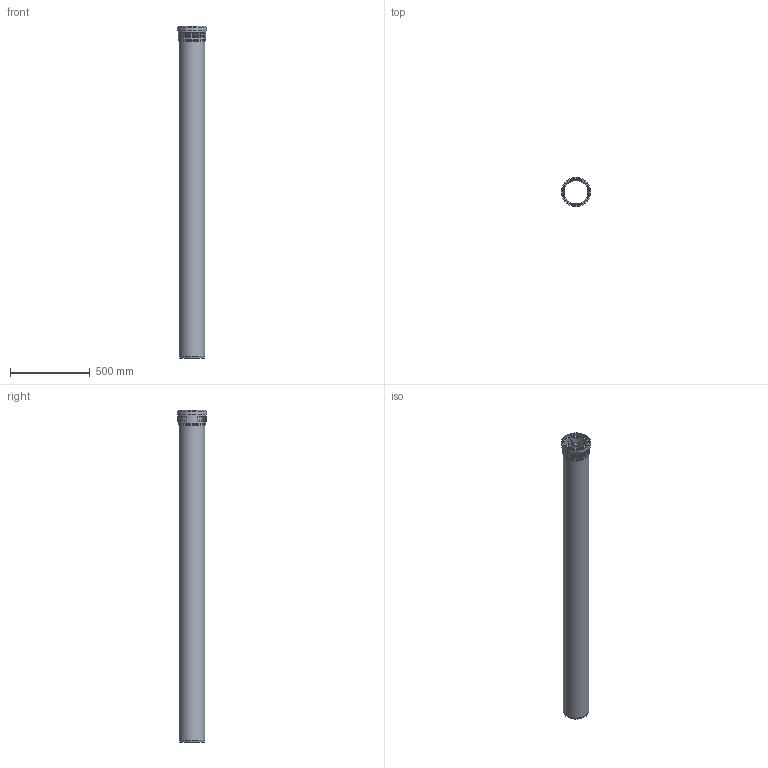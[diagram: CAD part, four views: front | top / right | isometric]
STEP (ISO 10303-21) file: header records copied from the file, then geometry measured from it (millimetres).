
FILE_DESCRIPTION(/* description */ (''),/* implementation_level */ '2;1');
FILE_NAME(/* name */ 'Z:\Geberit\Export\NewStep\390706.stp',/* time_stamp */ '2014-04-02T08:16:28+02:00',/* author */ ('ML'),/* organization */ (''),/* preprocessor_version */ 'ST-DEVELOPER v15.2',/* originating_system */ 'Autodesk Inventor 2014',/* authorisation */ '');
FILE_SCHEMA (('AUTOMOTIVE_DESIGN { 1 0 10303 214 3 1 1 }'));
Length unit declared in the file: millimetre
Products named in the file (3): 861678; 861587ohne; 390706
Bounding box: 182.6 x 182.6 x 2080.6 mm (x, y, z)
Volume: 5352152.4 mm3; surface area: 2072036.9 mm2
Topology: 2 solids, 2 shells, 47 faces, 104 edges, 71 vertices
Faces by surface type: torus 24, cylinder 11, plane 10, cone 2
Full cylindrical faces by diameter (mm): 149.85 x2, 160.25 x2, 161.4 x2, 166.6 x1, 171.8 x2, 172.2 x1, 182.6 x1
Entity records: 2003 total; most frequent: CARTESIAN_POINT 962, DIRECTION 182, ORIENTED_EDGE 174, AXIS2_PLACEMENT_3D 91, EDGE_CURVE 87, EDGE_LOOP 78, VERTEX_POINT 71, STYLED_ITEM 49
